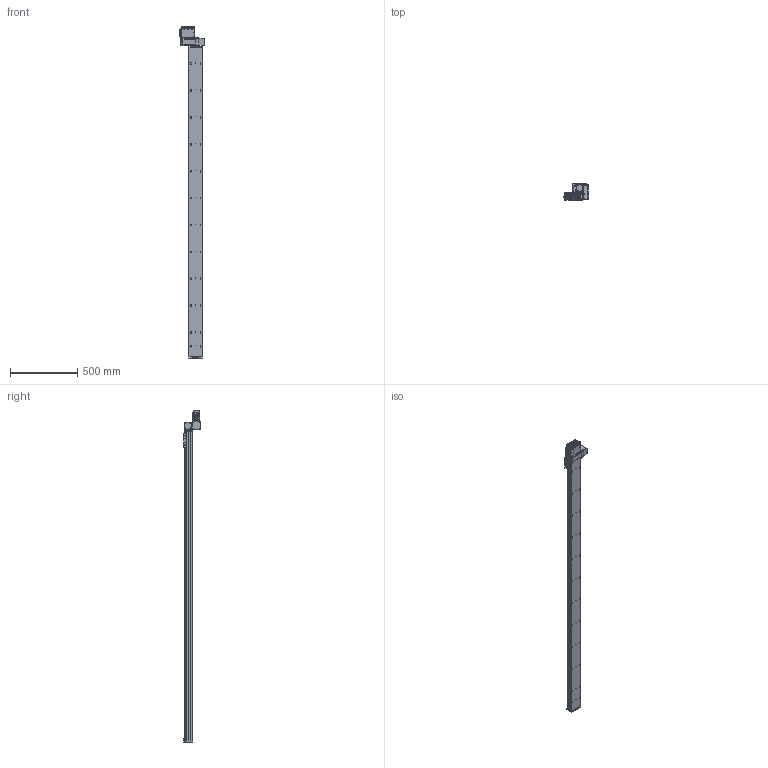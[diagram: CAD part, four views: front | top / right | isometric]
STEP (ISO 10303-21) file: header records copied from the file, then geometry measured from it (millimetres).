
FILE_DESCRIPTION (( 'STEP AP203' ), '1' );
FILE_NAME ('S10 TBH LH S2300.STEP', '2012-06-19T07:18:55', ( 'Conseil Régional Haute-Normandie' ), ( 'Conseil Régional Haute-Normandie' ), 'SwSTEP 2.0', 'SolidWorks 2010', '' );
FILE_SCHEMA (( 'CONFIG_CONTROL_DESIGN' ));
Products named in the file (30): palette tbn; embout; plaque de bout s10_Default; vis M5 L5_Default; Assem1_7; Moteur 60BLDC90A_3; Couvercle_3; T_X2_00F4_X0_le fond_3; T_X2_00F4_X0_le Arri_X2_00E8_X0_re_5; Colonnette ronde_3; S10 TBH LH S2300; cache t皻e axe_Default; cache t皻e_Default; Cvis M5 L30_Default; Plaque racord_Default; renvoi LH_Default; vis M5 L12_Default; Vis M5 L16-2_Default_1; T_X2_00F4_X0_le contre le moteur_5; BU41 Carte Alimentation P05_3; Colonnette_3; BU45 Carte d''axe A11_5; Connecteur rond D10 3cts_5; Connecteur rond D12 4cts_5; Sub D 9cts 90_X2_00B_X0__3; Radiateur profil_X2_00E9_X0_ 100x25_3; T_X2_00F4_X0_le lat_X2_00E9_X0_rale_5; Vis TF 3 torkx_1_1; axe2300_Default; axe 2300
Assembly tree (63 placements, depth 3):
  S10 TBH LH S2300
    cache t皻e axe_Default
    Cvis M5 L30_Default  x2
    Vis M5 L16-2_Default_1  x4
    vis M5 L5_Default  x4
    cache t皻e_Default  x2
    renvoi LH_Default
    vis M5 L12_Default  x4
    axe2300_Default
      axe 2300
    embout
    Plaque racord_Default
    Assem1_7
      Couvercle_3
      Connecteur rond D10 3cts_5  x2
      T_X2_00F4_X0_le lat_X2_00E9_X0_rale_5  x2
      Vis TF 3 torkx_1_1  x21
      BU45 Carte d''axe A11_5
      Radiateur profil_X2_00E9_X0_ 100x25_3
      Colonnette ronde_3
      Connecteur rond D12 4cts_5
      Sub D 9cts 90_X2_00B_X0__3
      T_X2_00F4_X0_le fond_3
      T_X2_00F4_X0_le contre le moteur_5
      Colonnette_3  x2
      Moteur 60BLDC90A_3
      T_X2_00F4_X0_le Arri_X2_00E8_X0_re_5
      BU41 Carte Alimentation P05_3
    palette tbn
    plaque de bout s10_Default
Bounding box: 189.8 x 124.75 x 2466.5 mm (x, y, z)
Volume: 12758610 mm3; surface area: 1391818.4 mm2
Topology: 61 solids, 61 shells, 2373 faces, 5874 edges, 3787 vertices
Faces by surface type: plane 1114, cylinder 1034, cone 182, bspline 40, torus 3
Entity records: 49972 total; most frequent: CARTESIAN_POINT 8966, DIRECTION 8113, ORIENTED_EDGE 7328, EDGE_CURVE 3664, AXIS2_PLACEMENT_3D 3033, VERTEX_POINT 2391, LINE 2047, VECTOR 2047
